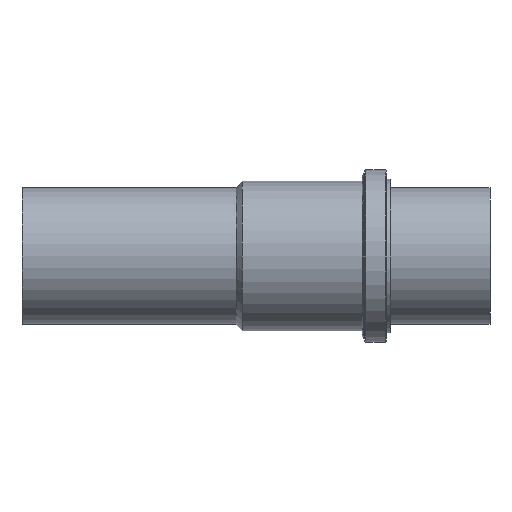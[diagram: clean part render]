
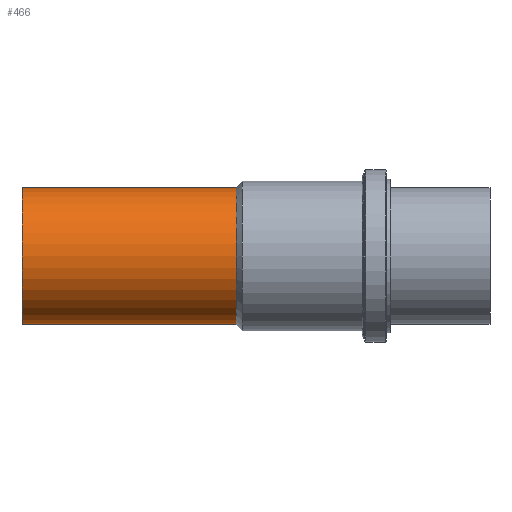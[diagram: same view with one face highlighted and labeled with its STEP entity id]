
A CAD part, front view. The second image highlights one B-rep face of the part: STEP entity #466.
In plain terms, the highlighted cylindrical face has radius 80 mm (diameter 160 mm), a full revolution.
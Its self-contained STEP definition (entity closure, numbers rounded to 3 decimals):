
#84=FACE_BOUND($,#202,.T.);
#120=FACE_OUTER_BOUND($,#201,.T.);
#201=EDGE_LOOP($,(#406));
#202=EDGE_LOOP($,(#407));
#231=CIRCLE($,#527,80.);
#243=CIRCLE($,#552,80.);
#272=VERTEX_POINT($,#804);
#284=VERTEX_POINT($,#841);
#313=EDGE_CURVE($,#272,#272,#231,.T.);
#325=EDGE_CURVE($,#284,#284,#243,.T.);
#406=ORIENTED_EDGE($,*,*,#313,.F.);
#407=ORIENTED_EDGE($,*,*,#325,.T.);
#425=CYLINDRICAL_SURFACE($,#553,80.);
#466=ADVANCED_FACE($,(#120,#84),#425,.T.);
#527=AXIS2_PLACEMENT_3D($,#805,#666,#667);
#552=AXIS2_PLACEMENT_3D($,#842,#716,#717);
#553=AXIS2_PLACEMENT_3D($,#843,#718,#719);
#666=DIRECTION('center_axis',(1.,0.,0.));
#667=DIRECTION('ref_axis',(0.,1.,0.));
#716=DIRECTION('center_axis',(1.,0.,0.));
#717=DIRECTION('ref_axis',(0.,1.,0.));
#718=DIRECTION('center_axis',(1.,0.,0.));
#719=DIRECTION('ref_axis',(0.,1.,0.));
#804=CARTESIAN_POINT('',(-170.,80.,0.));
#805=CARTESIAN_POINT('Origin',(-170.,0.,0.));
#841=CARTESIAN_POINT('',(-420.,80.,0.));
#842=CARTESIAN_POINT('Origin',(-420.,0.,0.));
#843=CARTESIAN_POINT('Origin',(-325.,0.,0.));
